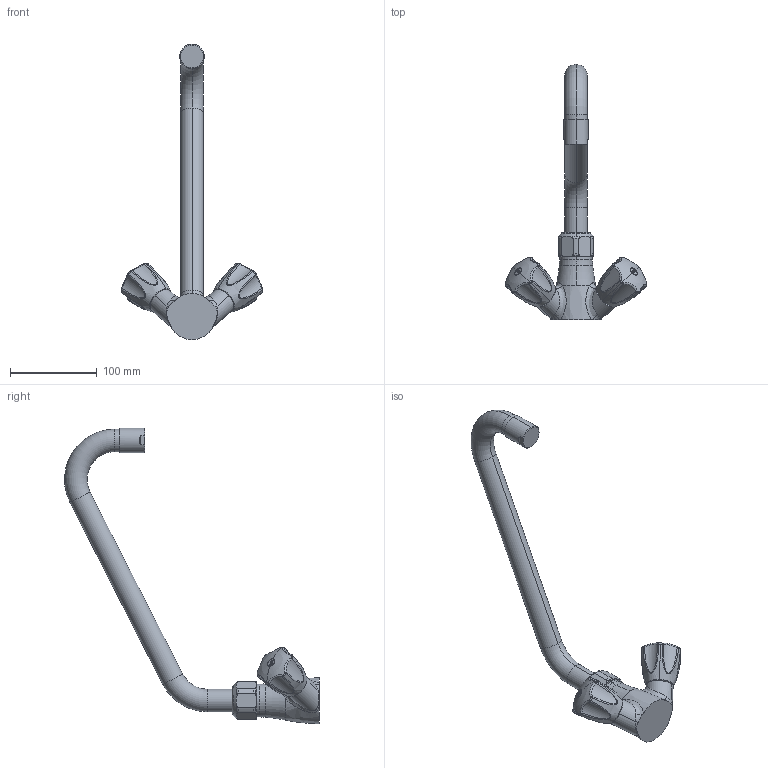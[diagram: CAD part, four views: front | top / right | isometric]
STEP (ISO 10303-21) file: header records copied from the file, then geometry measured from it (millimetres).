
FILE_DESCRIPTION((''),'2;1');
FILE_NAME('K_24_41_04_000C07','2012-01-03T',('HEF'),(''),'PRO/ENGINEER BY PARAMETRIC TECHNOLOGY CORPORATION, 2011080','PRO/ENGINEER BY PARAMETRIC TECHNOLOGY CORPORATION, 2011080','');
FILE_SCHEMA(('AUTOMOTIVE_DESIGN_CC2 { 1 2 10303 214 -1 1 5 2 }'));
Length unit declared in the file: millimetre
Products named in the file (1): K_24_41_04_000C07
Bounding box: 163.6 x 294 x 340.76 mm (x, y, z)
Volume: 553264.4 mm3; surface area: 72796.6 mm2
Topology: 1 solids, 1 shells, 247 faces, 588 edges, 356 vertices
Faces by surface type: plane 85, torus 44, bspline 42, cylinder 40, sphere 28, cone 4, extrusion 4
Entity records: 16336 total; most frequent: CARTESIAN_POINT 8958, ORIENTED_EDGE 1176, DIRECTION 1118, EDGE_CURVE 588, AXIS2_PLACEMENT_3D 447, VERTEX_POINT 356, FILL_AREA_STYLE_COLOUR 267, FILL_AREA_STYLE 267
